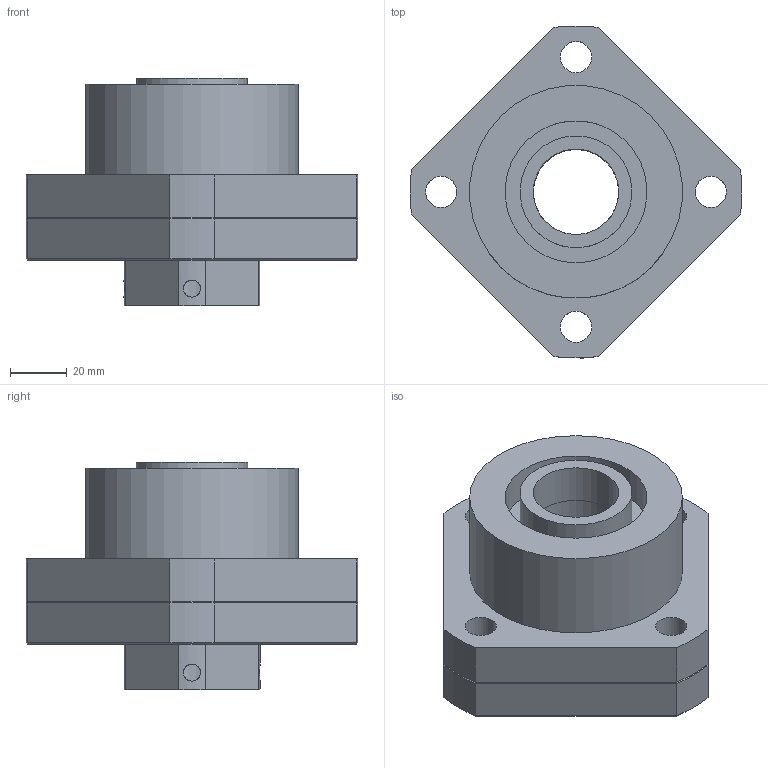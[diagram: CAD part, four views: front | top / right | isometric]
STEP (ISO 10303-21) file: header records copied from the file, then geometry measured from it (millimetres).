
FILE_DESCRIPTION(/* description */ (''),/* implementation_level */ '2;1');
FILE_NAME(/* name */ 'FK30.stp',/* time_stamp */ '2020-07-23T15:05:00+08:00',/* author */ (''),/* organization */ (''),/* preprocessor_version */ 'ST-DEVELOPER v16.7',/* originating_system */ 'SIEMENS PLM Software NX 12.0',/* authorisation */ '');
FILE_SCHEMA (('AUTOMOTIVE_DESIGN { 1 0 10303 214 3 1 1 1 }'));
Length unit declared in the file: millimetre
Products named in the file (6): FK30-LID; M30; GT-39.4-30.1-14; 7206; FK30-A; FK30
Assembly tree (7 placements, depth 2):
  FK30
    FK30-A
    7206  x2
    GT-39.4-30.1-14  x2
    M30
    FK30-LID
Bounding box: 116.88 x 116.88 x 80 mm (x, y, z)
Volume: 312360.6 mm3; surface area: 94657 mm2
Topology: 7 solids, 7 shells, 107 faces, 228 edges, 148 vertices
Faces by surface type: cylinder 50, plane 47, cone 8, torus 2
Full cylindrical faces by diameter (mm): 6 x2, 8 x4, 9 x4, 11 x4, 14 x4, 17.5 x4, 30 x3, 30.1 x2, 39 x1, 39.4 x2, 49 x1, 50 x2, 62 x4, 75 x1
Entity records: 2972 total; most frequent: CARTESIAN_POINT 691, DIRECTION 466, ORIENTED_EDGE 348, AXIS2_PLACEMENT_3D 205, EDGE_LOOP 186, EDGE_CURVE 174, FACE_BOUND 144, VERTEX_POINT 134
